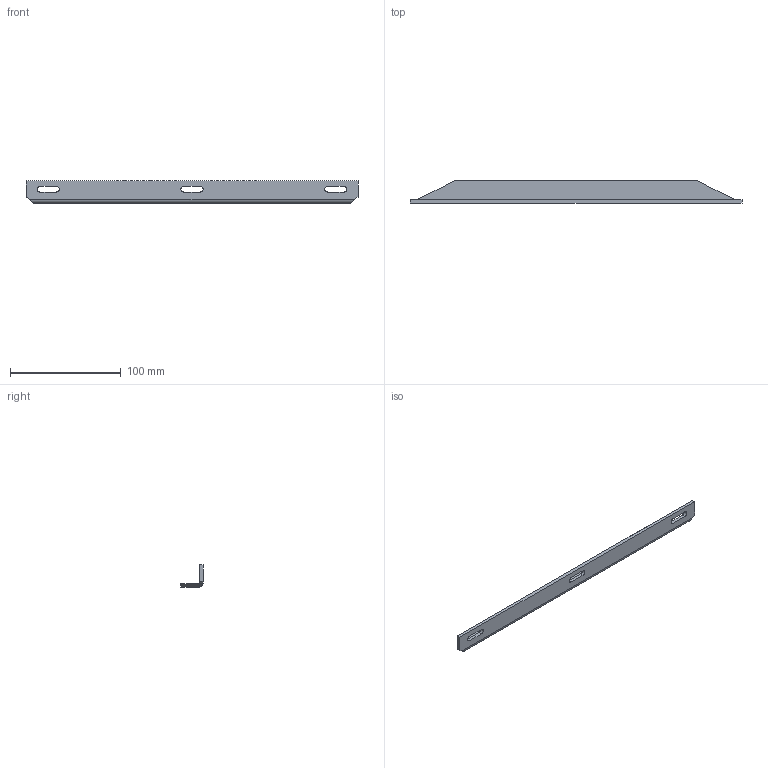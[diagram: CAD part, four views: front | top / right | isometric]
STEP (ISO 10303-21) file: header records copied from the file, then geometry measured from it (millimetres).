
FILE_DESCRIPTION (( 'STEP AP214' ), '1' );
FILE_NAME ('E446-300.STEP', '2024-12-11T22:57:05', ( '' ), ( '' ), 'SwSTEP 2.0', 'SolidWorks 2024', '' );
FILE_SCHEMA (( 'AUTOMOTIVE_DESIGN' ));
Length unit declared in the file: millimetre
Products named in the file (1): E446-300
Bounding box: 300 x 20 x 20 mm (x, y, z)
Volume: 29227.4 mm3; surface area: 21855.7 mm2
Topology: 1 solids, 1 shells, 80 faces, 214 edges, 140 vertices
Faces by surface type: plane 60, cylinder 14, bspline 6
Entity records: 2619 total; most frequent: CARTESIAN_POINT 617, ORIENTED_EDGE 428, DIRECTION 372, EDGE_CURVE 214, LINE 174, VECTOR 174, VERTEX_POINT 140, AXIS2_PLACEMENT_3D 99
